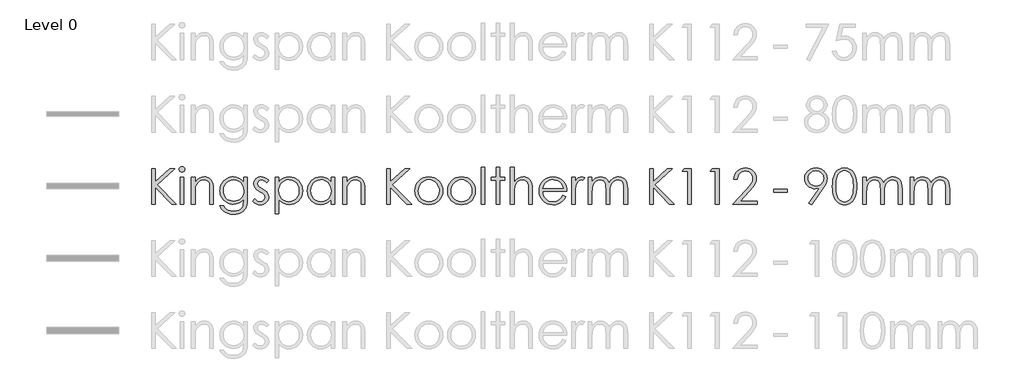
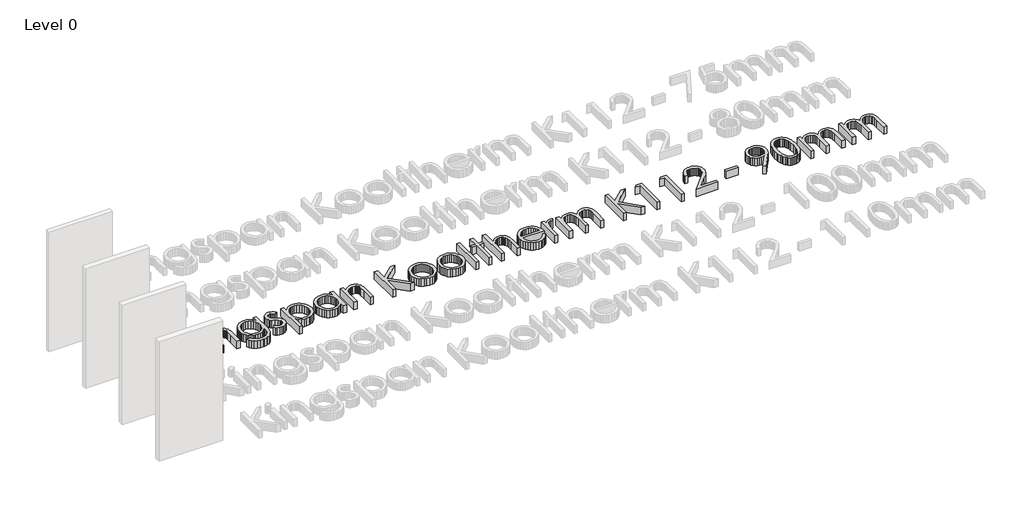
# One storey, part 7 of 14: 1 proxy.
"""IFC4 building model written with IfcOpenShell, lengths in millimetres."""

from ifc_helpers import new_model, si_unit, origin, origin_with_axes, place, context, project, spatial, polyline, outline, extrude, element, save

model = new_model("IFC4")

# Units and contexts
model_context = context("Model", 3, world=origin())
ifc_project = project(units=[si_unit("LENGTHUNIT", "METRE", prefix="MILLI")], contexts=[model_context])

# Site, building, storey
site = spatial("IfcSite", under=ifc_project)
building = spatial("IfcBuilding", under=site)
storey = spatial("IfcBuildingStorey", under=building, Name="Level 0", Elevation=0.0)

# Proxy
placement = place(None, origin())
element("IfcBuildingElementProxy", 1, Name="600mm KI_CenturyGothic", ObjectType="600mm KI_CenturyGothic", at=placement, inside=storey, context=model_context, shape_type="SweptSolid", body=[
    extrude(outline(polyline([(-3852.2663848, -2499.1034017), (-3792.944575, -2499.1034017), (-3792.944575, -2718.316027), (-3555.1938841, -2499.1034017), (-3471.6181051, -2499.1034017), (-3760.9664119, -2766.0515459), (-3441.9572002, -3092.3214999), (-3520.8984627, -3092.3214999), (-3792.944575, -2814.0960325), (-3792.944575, -3092.3214999), (-3852.2663848, -3092.3214999), (-3852.2663848, -2499.1034017)])), origin_with_axes(), (0.0, 0.0, 1.0), 150.0),
    extrude(outline(polyline([(-3348.1854852, -2469.4424967), (-3329.145347, -2472.7252792), (-3313.1176445, -2482.5736265), (-3302.226531, -2497.0178693), (-3298.5961598, -2514.088338), (-3302.226531, -2530.9270809), (-3313.1176445, -2545.2940817), (-3329.145347, -2555.142429), (-3348.1854852, -2558.4252115), (-3366.9938975, -2555.142429), (-3382.9443581, -2545.2940817), (-3393.8354717, -2530.9270809), (-3397.4658428, -2514.088338), (-3393.8354717, -2497.0178693), (-3382.9443581, -2482.5736265), (-3366.9938975, -2472.7252792), (-3348.1854852, -2469.4424967)])), origin_with_axes(), (0.0, 0.0, 1.0), 150.0),
    extrude(outline(polyline([(-3377.6919062, -2647.4079262), (-3318.3700964, -2647.4079262), (-3318.3700964, -3092.3214999), (-3377.6919062, -3092.3214999), (-3377.6919062, -2647.4079262)])), origin_with_axes(), (0.0, 0.0, 1.0), 150.0),
    extrude(outline(polyline([(-3189.8395084, -2647.4079262), (-3130.5176986, -2647.4079262), (-3130.5176986, -2726.5036726), (-3096.9946967, -2686.9944204), (-3060.0730495, -2659.303185), (-3019.7141359, -2642.9665147), (-2975.879335, -2637.5209579), (-2953.4357238, -2639.0995901), (-2932.2955704, -2643.8354865), (-2912.4588747, -2651.7286472), (-2893.9256368, -2662.7790723), (-2877.212412, -2676.5039994), (-2862.835756, -2692.4206667), (-2841.0921499, -2730.8292213), (-2833.6238199, -2755.2087086), (-2828.2892984, -2785.5551357), (-2824.0216812, -2864.1488095), (-2824.0216812, -3092.3214999), (-2883.343491, -3092.3214999), (-2883.343491, -2879.1337458), (-2883.343491, -2776.092998), (-2884.7290183, -2755.2956057), (-2889.8125035, -2737.2403023), (-2898.2849788, -2721.9270877), (-2910.1464442, -2709.355962), (-2924.7403432, -2699.5558909), (-2941.4101193, -2692.5558401), (-2980.977303, -2686.9557994), (-3005.3471351, -2689.1137461), (-3028.4038541, -2695.5875862), (-3050.1474602, -2706.3773197), (-3070.5779533, -2721.4829466), (-3088.6622225, -2739.7651482), (-3103.3671568, -2760.084606), (-3114.6927562, -2782.44132), (-3122.6390208, -2806.8352901), (-3128.5480292, -2853.9142525), (-3130.5176986, -2928.4141035), (-3130.5176986, -3092.3214999), (-3189.8395084, -3092.3214999), (-3189.8395084, -2647.4079262)])), origin_with_axes(), (0.0, 0.0, 1.0), 150.0),
    extrude(outline(polyline([(-2319.7862977, -2647.4079262), (-2260.4644879, -2647.4079262), (-2260.4644879, -2998.395301), (-2264.5196897, -3078.6496765), (-2269.588692, -3109.4499001), (-2276.6852953, -3134.0321474), (-2289.9371156, -3162.6454585), (-2307.2924139, -3187.7732271), (-2328.7511904, -3209.4154531), (-2354.3134448, -3227.5721366), (-2383.3226209, -3241.9343098), (-2415.122162, -3252.1930049), (-2449.7120682, -3258.348222), (-2487.0923395, -3260.3999611), (-2541.0458345, -3256.3833802), (-2589.206184, -3244.3336376), (-2630.260275, -3225.5059147), (-2662.8949946, -3201.1553932), (-2690.2000204, -3167.8061856), (-2715.2650299, -3121.9824048), (-2655.94322, -3121.9824048), (-2642.4355358, -3143.151524), (-2627.0933555, -3161.3951046), (-2609.9166791, -3176.7131468), (-2590.9055067, -3189.1056506), (-2569.7894914, -3198.6691682), (-2546.2982864, -3205.5002523), (-2492.1903075, -3210.9651195), (-2438.5071593, -3205.6354257), (-2415.083541, -3198.9733084), (-2393.93856, -3189.6463441), (-2359.6624492, -3165.6047903), (-2336.8567664, -3136.1176798), (-2329.3884364, -3117.4782342), (-2324.0539149, -3093.7697863), (-2319.7862977, -3031.1458835), (-2319.7862977, -3008.4367532), (-2354.757586, -3044.2190818), (-2396.6420279, -3070.6165148), (-2443.392712, -3086.8952536), (-2492.9627269, -3092.3214999), (-2522.4063889, -3090.4242447), (-2550.9521133, -3084.7324793), (-2578.5999001, -3075.2462036), (-2605.3497494, -3061.9654175), (-2630.1540674, -3045.4742634), (-2651.9652601, -3026.3568832), (-2670.7833277, -3004.6132772), (-2686.6082702, -2980.2434451), (-2699.1456025, -2953.9280817), (-2708.1008399, -2926.3478816), (-2713.4739824, -2897.5028447), (-2715.2650299, -2867.392971), (-2713.3967404, -2837.1044753), (-2707.7918722, -2807.8780563), (-2698.4504251, -2779.713714), (-2685.3723991, -2752.6114483), (-2668.9971079, -2727.4257483), (-2649.7638648, -2705.0111029), (-2627.67267, -2685.367512), (-2602.7235235, -2668.4949758), (-2575.9833294, -2654.943843), (-2548.5189922, -2645.2644624), (-2520.3305117, -2639.456834), (-2491.4178881, -2637.5209579), (-2444.5320306, -2642.4644421), (-2400.8903346, -2657.2948945), (-2359.6045177, -2683.8661218), (-2319.7862977, -2724.0319306), (-2319.7862977, -2647.4079262)]), holes=[polyline([(-2484.1571458, -2686.9557994), (-2529.0154023, -2692.9806707), (-2570.5908765, -2711.0552847), (-2606.2187212, -2739.7699758), (-2633.2340897, -2777.7150788), (-2650.2659375, -2821.9940208), (-2655.94322, -2869.7102292), (-2653.0080263, -2905.6229036), (-2644.2024452, -2938.2817613), (-2629.5264766, -2967.6868023), (-2608.9801206, -2993.8380266), (-2583.7606272, -3015.296803), (-2555.0652466, -3030.6245004), (-2522.8939786, -3039.8211189), (-2487.2468234, -3042.8866584), (-2451.3244937, -3039.845257), (-2419.1001219, -3030.7210528), (-2390.573708, -3015.5140459), (-2365.7452519, -2994.2242363), (-2345.6382095, -2967.9812872), (-2331.2760363, -2937.9148621), (-2322.6587323, -2904.024961), (-2319.7862977, -2866.3115838), (-2325.0773706, -2817.6105407), (-2340.9505892, -2774.3936754), (-2366.4983608, -2738.1672056), (-2400.8130926, -2710.4373492), (-2440.9982119, -2692.8261869), (-2484.1571458, -2686.9557994)])]), origin_with_axes(), (0.0, 0.0, 1.0), 150.0),
    extrude(outline(polyline([(-1904.5336289, -2698.6965743), (-1940.9918246, -2736.390641), (-1962.9575012, -2714.7628978), (-1984.6721416, -2699.3145098), (-2006.1357456, -2690.045477), (-2027.3483133, -2686.9557994), (-2052.181597, -2691.6289368), (-2073.2300256, -2705.6483489), (-2087.5970264, -2725.8857371), (-2092.3860267, -2749.212803), (-2088.4466878, -2770.7633042), (-2076.628671, -2791.2324183), (-2052.0657341, -2813.400855), (-2010.2006027, -2839.122421), (-1958.3326401, -2871.9888664), (-1939.8428507, -2887.8138088), (-1926.315856, -2903.2332311), (-1909.9791857, -2935.9065716), (-1904.5336289, -2972.4420092), (-1906.9474396, -2998.5884059), (-1914.1888714, -3022.6492701), (-1926.2579245, -3044.624602), (-1943.1545989, -3064.5144015), (-1963.6719892, -3081.0055557), (-1986.6031901, -3092.7849515), (-2011.9482016, -3099.852589), (-2039.7070237, -3102.2084682), (-2077.4397114, -3098.3270607), (-2113.3958344, -3086.6828383), (-2145.4512394, -3068.2027042), (-2171.4817731, -3043.8135617), (-2135.7959969, -3003.3387852), (-2114.0041146, -3024.9665283), (-2091.5749863, -3040.4149163), (-2068.5086121, -3049.6839491), (-2044.8049918, -3052.7736267), (-2013.637869, -3047.1349651), (-1987.4914724, -3030.2189802), (-1969.7644472, -3005.6560434), (-1963.8554388, -2977.0765256), (-1967.7561567, -2953.2860081), (-1979.4583106, -2932.2762005), (-2005.0253927, -2910.5712154), (-2050.2119275, -2883.7682622), (-2099.762632, -2853.1032121), (-2117.441381, -2837.9444814), (-2130.3890611, -2822.9016136), (-2146.3781427, -2790.7689666), (-2151.7078365, -2754.310771), (-2149.5305794, -2730.2643896), (-2142.9988078, -2708.3325063), (-2132.1125219, -2688.5151211), (-2116.8717217, -2670.812234), (-2098.309518, -2656.2473007), (-2077.4590218, -2645.8437769), (-2054.3202332, -2639.6016627), (-2028.8931521, -2637.5209579), (-1997.9481, -2641.3444339), (-1966.9064954, -2652.814862), (-1935.7683384, -2671.9322421), (-1904.5336289, -2698.6965743)])), origin_with_axes(), (0.0, 0.0, 1.0), 150.0),
    extrude(outline(polyline([(-1795.7769776, -2647.4079262), (-1736.4551678, -2647.4079262), (-1736.4551678, -2728.5119631), (-1700.9238754, -2688.2689124), (-1660.4490989, -2659.9211205), (-1614.9922173, -2643.1209986), (-1564.5146096, -2637.5209579), (-1520.0618732, -2641.7596094), (-1478.9305402, -2654.4755637), (-1441.1206107, -2675.668821), (-1406.6320845, -2705.3393811), (-1377.9077381, -2740.9768811), (-1357.3903478, -2780.070958), (-1345.0799137, -2822.6216116), (-1340.9764356, -2868.628842), (-1345.0412927, -2915.5291824), (-1357.235864, -2958.7508754), (-1377.5601494, -2998.293921), (-1406.014149, -3034.1583192), (-1440.2130179, -3063.9302594), (-1477.7719111, -3085.1959309), (-1518.6908288, -3097.9553339), (-1562.9697708, -3102.2084682), (-1612.6170277, -3096.743601), (-1658.0545988, -3080.3489992), (-1699.3211052, -3053.1019049), (-1736.4551678, -3015.07956), (-1736.4551678, -3250.5129928), (-1795.7769776, -3250.5129928), (-1795.7769776, -2647.4079262)]), holes=[polyline([(-1568.5311905, -2686.9557994), (-1602.5852307, -2690.2530647), (-1633.8392507, -2700.1448607), (-1662.2932503, -2716.6311872), (-1687.9472295, -2739.7120444), (-1709.1694525, -2767.6977647), (-1724.3281832, -2798.8986808), (-1733.4234216, -2833.3147926), (-1736.4551678, -2870.9461002), (-1731.048232, -2919.8016272), (-1714.8274246, -2963.4819442), (-1688.5265441, -3000.3263495), (-1652.8793888, -3028.6741414), (-1611.4390881, -3046.7487554), (-1567.7587711, -3052.7736267), (-1525.0632888, -3046.7101344), (-1485.0326535, -3028.5196576), (-1450.2544701, -2999.4187567), (-1423.3163435, -2960.6239924), (-1406.05277, -2915.9588407), (-1400.2982454, -2869.2467775), (-1405.9948385, -2822.3029886), (-1423.0846177, -2777.8695627), (-1449.8103289, -2739.5189395), (-1484.414718, -2710.8235589), (-1524.7157001, -2692.9227393), (-1568.5311905, -2686.9557994)])]), origin_with_axes(), (0.0, 0.0, 1.0), 150.0),
    extrude(outline(polyline([(-807.0801472, -2647.4079262), (-807.0801472, -3092.3214999), (-866.401957, -3092.3214999), (-866.401957, -3016.4699149), (-903.4780882, -3054.3184655), (-944.8797679, -3081.0441767), (-990.4525125, -3096.9173953), (-1040.0418379, -3102.2084682), (-1084.3159523, -3097.9553339), (-1125.2203871, -3085.1959309), (-1162.7551422, -3063.9302594), (-1196.9202178, -3034.1583192), (-1225.340424, -2998.293921), (-1245.6405713, -2958.7508754), (-1257.8206597, -2915.5291824), (-1261.8806892, -2868.628842), (-1257.7820388, -2822.6216116), (-1245.4860875, -2780.070958), (-1224.9928353, -2740.9768811), (-1196.3022822, -2705.3393811), (-1161.8475494, -2675.668821), (-1124.061758, -2654.4755637), (-1082.9449079, -2641.7596094), (-1038.4969991, -2637.5209579), (-987.7490446, -2643.1209986), (-942.0990581, -2659.9211205), (-921.2051134, -2672.6081091), (-901.6242816, -2688.2689124), (-866.401957, -2728.5119631), (-866.401957, -2647.4079262), (-807.0801472, -2647.4079262)]), holes=[polyline([(-1034.3259343, -2686.9557994), (-1078.1414247, -2692.9227393), (-1118.4424068, -2710.8235589), (-1153.0467959, -2739.5189395), (-1179.7725071, -2777.8695627), (-1196.8622863, -2822.3029886), (-1202.5588794, -2869.2467775), (-1196.8043548, -2915.9588407), (-1179.5407813, -2960.6239924), (-1152.6026548, -2999.4187567), (-1117.8244713, -3028.5196576), (-1077.6779731, -3046.7101344), (-1034.6349021, -3052.7736267), (-991.0125165, -3046.7487554), (-949.7460102, -3028.6741414), (-914.2726493, -3000.3263495), (-888.0297002, -2963.4819442), (-871.8088928, -2919.8016272), (-866.401957, -2870.9461002), (-869.4337032, -2833.3147926), (-878.5289416, -2798.8986808), (-893.6876723, -2767.6977647), (-914.9098953, -2739.7120444), (-940.5638746, -2716.6311872), (-969.0178742, -2700.1448607), (-1000.2718941, -2690.2530647), (-1034.3259343, -2686.9557994)])]), origin_with_axes(), (0.0, 0.0, 1.0), 150.0),
    extrude(outline(polyline([(-668.662591, -2647.4079262), (-609.3407811, -2647.4079262), (-609.3407811, -2726.5036726), (-575.8177792, -2686.9944204), (-538.896132, -2659.303185), (-498.5372184, -2642.9665147), (-454.7024175, -2637.5209579), (-432.2588064, -2639.0995901), (-411.1186529, -2643.8354865), (-391.2819572, -2651.7286472), (-372.7487193, -2662.7790723), (-356.0354946, -2676.5039994), (-341.6588385, -2692.4206667), (-319.9152324, -2730.8292213), (-312.4469024, -2755.2087086), (-307.1123809, -2785.5551357), (-302.8447637, -2864.1488095), (-302.8447637, -3092.3214999), (-362.1665735, -3092.3214999), (-362.1665735, -2879.1337458), (-362.1665735, -2776.092998), (-363.5521008, -2755.2956057), (-368.635586, -2737.2403023), (-377.1080613, -2721.9270877), (-388.9695267, -2709.355962), (-403.5634257, -2699.5558909), (-420.2332018, -2692.5558401), (-459.8003855, -2686.9557994), (-484.1702176, -2689.1137461), (-507.2269366, -2695.5875862), (-528.9705427, -2706.3773197), (-549.4010358, -2721.4829466), (-567.485305, -2739.7651482), (-582.1902393, -2760.084606), (-593.5158387, -2782.44132), (-601.4621033, -2806.8352901), (-607.3711117, -2853.9142525), (-609.3407811, -2928.4141035), (-609.3407811, -3092.3214999), (-668.662591, -3092.3214999), (-668.662591, -2647.4079262)])), origin_with_axes(), (0.0, 0.0, 1.0), 150.0),
    extrude(outline(polyline([(62.9730635, -2499.1034017), (122.2948734, -2499.1034017), (122.2948734, -2718.316027), (360.0455643, -2499.1034017), (443.6213432, -2499.1034017), (154.2730365, -2766.0515459), (473.2822481, -3092.3214999), (394.3409856, -3092.3214999), (122.2948734, -2814.0960325), (122.2948734, -3092.3214999), (62.9730635, -3092.3214999), (62.9730635, -2499.1034017)])), origin_with_axes(), (0.0, 0.0, 1.0), 150.0),
    extrude(outline(polyline([(760.1588128, -2637.5209579), (809.4681362, -2642.1458191), (854.3553585, -2656.0204025), (894.8204798, -2679.1447083), (930.8635, -2711.5187363), (957.7630055, -2746.7507161), (976.9769381, -2785.091684), (988.5052976, -2826.54164), (992.3480841, -2871.1005841), (988.283227, -2915.9153921), (976.0886558, -2957.8239721), (955.7643703, -2996.8263241), (927.3103707, -3032.9224481), (892.4742558, -3063.2350819), (853.0036246, -3084.8869632), (808.8984769, -3097.8780919), (760.1588128, -3102.2084682), (711.2839754, -3097.8780919), (667.0822753, -3084.8869632), (627.5537126, -3063.2350819), (592.6982872, -3032.9224481), (564.2442876, -2996.8263241), (543.9200022, -2957.8239721), (531.7254309, -2915.9153921), (527.6605738, -2871.1005841), (531.5033603, -2826.7347449), (543.0317198, -2785.4006518), (562.2456524, -2747.0983049), (589.145158, -2711.8277041), (625.2074886, -2679.3185026), (665.7305413, -2656.0976445), (710.7143161, -2642.1651295), (760.1588128, -2637.5209579)]), holes=[polyline([(760.004329, -2686.9557994), (725.7282181, -2690.3303067), (693.9624704, -2700.4538284), (664.7070856, -2717.3263647), (637.962064, -2740.9479154), (615.6584538, -2769.3584664), (599.7273037, -2800.5980035), (590.1686137, -2834.6665266), (586.9823836, -2871.5640357), (592.7948396, -2919.2995546), (610.2322075, -2963.6364281), (637.5758543, -3001.4270471), (673.1071466, -3029.5238028), (714.6439998, -3046.9611707), (760.004329, -3052.7736267), (805.3646581, -3046.9611707), (846.9015113, -3029.5238028), (882.4328037, -3001.4270471), (909.7764504, -2963.6364281), (927.2138183, -2919.2995546), (933.0262743, -2871.5640357), (929.8255614, -2834.6665266), (920.2234227, -2800.5980035), (904.2198583, -2769.3584664), (881.8148681, -2740.9479154), (854.9974321, -2717.3263647), (825.7565303, -2700.4538284), (794.0921625, -2690.3303067), (760.004329, -2686.9557994)])]), origin_with_axes(), (0.0, 0.0, 1.0), 150.0),
    extrude(outline(polyline([(1303.9420695, -2637.5209579), (1353.2513929, -2642.1458191), (1398.1386152, -2656.0204025), (1438.6037365, -2679.1447083), (1474.6467567, -2711.5187363), (1501.5462622, -2746.7507161), (1520.7601948, -2785.091684), (1532.2885543, -2826.54164), (1536.1313408, -2871.1005841), (1532.0664837, -2915.9153921), (1519.8719125, -2957.8239721), (1499.547627, -2996.8263241), (1471.0936274, -3032.9224481), (1436.2575126, -3063.2350819), (1396.7868813, -3084.8869632), (1352.6817336, -3097.8780919), (1303.9420695, -3102.2084682), (1255.0672321, -3097.8780919), (1210.865532, -3084.8869632), (1171.3369693, -3063.2350819), (1136.4815439, -3032.9224481), (1108.0275443, -2996.8263241), (1087.7032589, -2957.8239721), (1075.5086876, -2915.9153921), (1071.4438305, -2871.1005841), (1075.286617, -2826.7347449), (1086.8149766, -2785.4006518), (1106.0289091, -2747.0983049), (1132.9284147, -2711.8277041), (1168.9907453, -2679.3185026), (1209.5137981, -2656.0976445), (1254.4975728, -2642.1651295), (1303.9420695, -2637.5209579)]), holes=[polyline([(1303.7875857, -2686.9557994), (1269.5114748, -2690.3303067), (1237.7457271, -2700.4538284), (1208.4903423, -2717.3263647), (1181.7453207, -2740.9479154), (1159.4417105, -2769.3584664), (1143.5105604, -2800.5980035), (1133.9518704, -2834.6665266), (1130.7656404, -2871.5640357), (1136.5780963, -2919.2995546), (1154.0154643, -2963.6364281), (1181.359111, -3001.4270471), (1216.8904033, -3029.5238028), (1258.4272565, -3046.9611707), (1303.7875857, -3052.7736267), (1349.1479149, -3046.9611707), (1390.684768, -3029.5238028), (1426.2160604, -3001.4270471), (1453.5597071, -2963.6364281), (1470.997075, -2919.2995546), (1476.809531, -2871.5640357), (1473.6088181, -2834.6665266), (1464.0066795, -2800.5980035), (1448.003115, -2769.3584664), (1425.5981249, -2740.9479154), (1398.7806889, -2717.3263647), (1369.539787, -2700.4538284), (1337.8754193, -2690.3303067), (1303.7875857, -2686.9557994)])]), origin_with_axes(), (0.0, 0.0, 1.0), 150.0),
    extrude(outline(polyline([(1635.0010238, -2479.3294651), (1694.3228337, -2479.3294651), (1694.3228337, -3092.3214999), (1635.0010238, -3092.3214999), (1635.0010238, -2479.3294651)])), origin_with_axes(), (0.0, 0.0, 1.0), 150.0),
    extrude(outline(polyline([(1882.1752314, -2479.3294651), (1941.4970413, -2479.3294651), (1941.4970413, -2647.4079262), (2020.5927877, -2647.4079262), (2020.5927877, -2696.8427677), (1941.4970413, -2696.8427677), (1941.4970413, -3092.3214999), (1882.1752314, -3092.3214999), (1882.1752314, -2696.8427677), (1803.079485, -2696.8427677), (1803.079485, -2647.4079262), (1882.1752314, -2647.4079262), (1882.1752314, -2479.3294651)])), origin_with_axes(), (0.0, 0.0, 1.0), 150.0),
    extrude(outline(polyline([(2119.4624707, -2479.3294651), (2178.7842806, -2479.3294651), (2178.7842806, -2728.0485114), (2212.5583188, -2688.3461544), (2249.6151394, -2660.0756044), (2289.9161216, -2643.1596195), (2333.4226442, -2637.5209579), (2355.8662553, -2639.0995901), (2377.0064088, -2643.8354865), (2396.8431044, -2651.7286472), (2415.3763424, -2662.7790723), (2432.0895671, -2676.4895166), (2446.4662232, -2692.3627352), (2468.2098293, -2730.5974955), (2475.6781593, -2754.9045684), (2481.0126808, -2785.2654784), (2485.280298, -2864.1488095), (2485.280298, -3092.3214999), (2425.9584882, -3092.3214999), (2425.9584882, -2879.1337458), (2424.5681332, -2814.752589), (2420.3970685, -2776.092998), (2406.879729, -2737.2403023), (2397.1665551, -2721.9270877), (2385.4837117, -2709.355962), (2371.840854, -2699.5558909), (2356.2476374, -2692.5558401), (2319.2101273, -2686.9557994), (2296.3416854, -2689.1137461), (2274.6994594, -2695.5875862), (2254.2834492, -2706.3773197), (2235.0936547, -2721.4829466), (2218.1052556, -2739.7651482), (2204.2934312, -2760.084606), (2193.6581816, -2782.44132), (2186.1995068, -2806.8352901), (2180.6380871, -2853.6825267), (2178.7842806, -2928.4141035), (2178.7842806, -3092.3214999), (2119.4624707, -3092.3214999), (2119.4624707, -2479.3294651)])), origin_with_axes(), (0.0, 0.0, 1.0), 150.0),
    extrude(outline(polyline([(2991.0605203, -2944.0169753), (3038.950523, -2969.1978477), (3013.3255094, -3011.0822896), (2984.0315038, -3044.0452875), (2950.952643, -3069.1296074), (2913.9730643, -3087.3780157), (2872.4941426, -3098.5008551), (2825.9172528, -3102.2084682), (2774.4258447, -3097.7767119), (2728.8627554, -3084.481443), (2689.227985, -3062.3226615), (2655.5215335, -3031.3003674), (2628.6220279, -2994.6973431), (2609.4080954, -2955.7963712), (2597.8797358, -2914.5974515), (2594.0369493, -2871.1005841), (2597.3197318, -2830.2202874), (2607.1680791, -2791.618628), (2623.5819913, -2755.2956057), (2646.5614684, -2721.2512207), (2682.7493173, -2684.6192308), (2724.5758277, -2658.4535236), (2772.0409998, -2642.7540993), (2825.1448334, -2637.5209579), (2879.7935059, -2642.8892727), (2928.6490329, -2658.9942172), (2971.7114143, -2685.8357913), (3008.9806503, -2723.4139951), (3030.4539096, -2755.585263), (3045.9022976, -2791.541386), (3055.3258143, -2831.2823641), (3058.7244596, -2874.8081972), (2653.3587591, -2874.8081972), (2657.095338, -2912.0629503), (2666.6057518, -2945.8128504), (2681.8900007, -2976.0578975), (2702.9480845, -3002.7980916), (2728.3124066, -3024.6623882), (2756.5153699, -3040.2797429), (2787.5569744, -3049.6501557), (2821.4372203, -3052.7736267), (2854.9602222, -3049.761191), (2887.5563208, -3040.7238841), (2917.2944677, -3026.6851615), (2942.2436143, -3008.668479), (2965.725164, -2982.5027719), (2991.0605203, -2944.0169753)]), holes=[polyline([(2999.4026498, -2825.3733557), (2984.9777175, -2782.8516678), (2965.1844704, -2749.8307385), (2939.0766947, -2724.3022774), (2905.7081767, -2704.257994), (2867.7630738, -2691.2813481), (2827.9255433, -2686.9557994), (2795.503239, -2689.6689226), (2765.4368139, -2697.808292), (2737.726268, -2711.3739077), (2712.3716012, -2730.3657696), (2695.8321708, -2748.179692), (2681.4362043, -2769.9522638), (2669.1837016, -2795.683485), (2659.0746627, -2825.3733557), (2999.4026498, -2825.3733557)])]), origin_with_axes(), (0.0, 0.0, 1.0), 150.0),
    extrude(outline(polyline([(3137.820206, -2647.4079262), (3197.1420159, -2647.4079262), (3197.1420159, -2711.8277041), (3222.6897875, -2678.7874643), (3249.589293, -2655.6728138), (3277.7632906, -2642.0589219), (3307.1345382, -2637.5209579), (3330.4616041, -2641.305813), (3355.3335087, -2652.6603781), (3325.8270877, -2694.6799934), (3297.2475699, -2686.9557994), (3270.8308265, -2692.9034288), (3245.3409863, -2710.7463169), (3223.2884125, -2741.1023993), (3207.183468, -2784.5896114), (3199.6523789, -2842.7141712), (3197.1420159, -2940.1548783), (3197.1420159, -3092.3214999), (3137.820206, -3092.3214999), (3137.820206, -2647.4079262)])), origin_with_axes(), (0.0, 0.0, 1.0), 150.0),
    extrude(outline(polyline([(3414.6553185, -2647.4079262), (3473.9771284, -2647.4079262), (3473.9771284, -2723.5684789), (3503.5607913, -2687.0716623), (3533.9168737, -2661.9294109), (3577.3268439, -2643.6230712), (3622.8995884, -2637.5209579), (3653.7384329, -2640.668567), (3682.9165757, -2650.1113941), (3708.6767627, -2664.7873627), (3729.2617397, -2683.634396), (3746.0425511, -2709.0663047), (3760.3902414, -2743.4968994), (3775.16759, -2719.0981017), (3791.6925376, -2697.808292), (3809.965084, -2679.6274704), (3829.9852293, -2664.5556369), (3851.2798666, -2652.7279648), (3873.375889, -2644.2796277), (3896.2732965, -2639.2106253), (3919.9720892, -2637.5209579), (3962.3006723, -2643.3334139), (3981.4952943, -2650.5989839), (3999.3768034, -2660.7707818), (4015.4914031, -2673.53984), (4029.385297, -2688.5971907), (4050.5109676, -2725.5767694), (4057.8103309, -2748.9521114), (4063.0241619, -2777.5219739), (4067.1952266, -2850.2452603), (4067.1952266, -3092.3214999), (4007.8734168, -3092.3214999), (4007.8734168, -2846.6921311), (4005.4209852, -2785.5744462), (3998.0636904, -2747.1272706), (3984.7587663, -2722.6608861), (3964.4634466, -2703.4855746), (3938.3942919, -2691.0882432), (3907.7678627, -2686.9557994), (3888.1194443, -2688.5054659), (3869.3399976, -2693.1544651), (3834.3880198, -2711.7504621), (3805.6540182, -2740.6968791), (3785.8800816, -2777.9468046), (3779.1889985, -2802.1042213), (3774.4096535, -2833.1747916), (3770.5861775, -2916.0553931), (3770.5861775, -3092.3214999), (3711.2643677, -3092.3214999), (3711.2643677, -2861.9860352), (3708.850557, -2793.530366), (3701.6091252, -2751.2983353), (3688.3621325, -2725.0553863), (3667.9316394, -2704.5669617), (3641.6114484, -2691.35859), (3610.6953619, -2686.9557994), (3573.7544042, -2692.9999812), (3539.2465676, -2711.1325266), (3510.2808401, -2739.499629), (3489.9662099, -2776.2474819), (3477.9743988, -2828.0768236), (3473.9771284, -2901.6883923), (3473.9771284, -3092.3214999), (3414.6553185, -3092.3214999), (3414.6553185, -2647.4079262)])), origin_with_axes(), (0.0, 0.0, 1.0), 150.0),
    extrude(outline(polyline([(4433.0130538, -2499.1034017), (4492.3348637, -2499.1034017), (4492.3348637, -2718.316027), (4730.0855546, -2499.1034017), (4813.6613335, -2499.1034017), (4524.3130268, -2766.0515459), (4843.3222385, -3092.3214999), (4764.3809759, -3092.3214999), (4492.3348637, -2814.0960325), (4492.3348637, -3092.3214999), (4433.0130538, -3092.3214999), (4433.0130538, -2499.1034017)])), origin_with_axes(), (0.0, 0.0, 1.0), 150.0),
    extrude(outline(polyline([(5010.6282802, -2499.1034017), (5125.1008351, -2499.1034017), (5125.1008351, -3092.3214999), (5065.7790253, -3092.3214999), (5065.7790253, -2548.5382432), (4976.7963106, -2548.5382432), (5010.6282802, -2499.1034017)])), origin_with_axes(), (0.0, 0.0, 1.0), 150.0),
    extrude(outline(polyline([(5475.3157905, -2499.1034017), (5589.7883454, -2499.1034017), (5589.7883454, -3092.3214999), (5530.4665356, -3092.3214999), (5530.4665356, -2548.5382432), (5441.4838208, -2548.5382432), (5475.3157905, -2499.1034017)])), origin_with_axes(), (0.0, 0.0, 1.0), 150.0),
    extrude(outline(polyline([(5896.2843628, -2677.0688311), (5836.962553, -2677.0688311), (5841.4474131, -2637.8106152), (5852.5847353, -2602.2213914), (5870.3745196, -2570.3011597), (5894.816766, -2542.0499202), (5924.2121517, -2518.9352697), (5956.8613542, -2502.4248051), (5992.7643733, -2492.5185263), (6031.9212092, -2489.2164334), (6070.3925229, -2492.5136987), (6105.0113948, -2502.4054946), (6135.777825, -2518.8918211), (6162.6918135, -2541.9726783), (6184.5561101, -2569.533568), (6200.1734648, -2599.459992), (6209.5438776, -2631.7519505), (6212.6673485, -2666.4094434), (6206.5845458, -2715.2070389), (6188.3361375, -2760.8763359), (6152.5538088, -2812.763609), (6093.869245, -2880.215133), (5941.084688, -3042.8866584), (6222.5543169, -3042.8866584), (6222.5543169, -3092.3214999), (5817.1886164, -3092.3214999), (6043.1985325, -2851.6356152), (6099.9327373, -2786.1151397), (6132.6446988, -2740.0210121), (6148.1703288, -2702.6552237), (6153.3455387, -2663.3197658), (6151.0958672, -2638.7133804), (6144.3468527, -2615.8739043), (6133.0984952, -2594.8013375), (6117.3507947, -2575.4956802), (6098.3396223, -2559.3762529), (6077.3008489, -2547.8623762), (6054.2344746, -2540.9540502), (6029.1404994, -2538.6512749), (6002.8058255, -2540.9250845), (5978.7980651, -2547.7465133), (5957.1172181, -2559.1155613), (5937.7632845, -2575.0322286), (5921.5279943, -2595.0523738), (5909.2030773, -2618.731856), (5900.7885334, -2646.0706751), (5896.2843628, -2677.0688311)])), origin_with_axes(), (0.0, 0.0, 1.0), 150.0),
    extrude(outline(polyline([(6499.3894294, -2845.1472923), (6726.7897004, -2845.1472923), (6726.7897004, -2894.5821338), (6499.3894294, -2894.5821338), (6499.3894294, -2845.1472923)])), origin_with_axes(), (0.0, 0.0, 1.0), 150.0),
    extrude(outline(polyline([(7132.1554008, -3102.2084682), (7081.1757205, -3074.5558537), (7254.5066336, -2829.3899366), (7192.24963, -2835.260324), (7156.3514385, -2832.1899569), (7123.2725777, -2822.9788556), (7093.0130478, -2807.62702), (7065.5728486, -2786.1344502), (7042.7961316, -2760.1521927), (7026.527048, -2731.3312939), (7016.7655979, -2699.6717538), (7013.5117812, -2665.1735724), (7015.0421371, -2641.1368462), (7019.6332049, -2618.3070254), (7027.2849846, -2596.6841098), (7037.9974761, -2576.2680996), (7051.5196432, -2557.450032), (7067.6004496, -2540.6209443), (7107.4379801, -2512.9297089), (7154.0148698, -2495.1447522), (7203.835921, -2489.2164334), (7252.5562746, -2495.0481998), (7297.3759102, -2512.5434992), (7317.6615747, -2525.3753165), (7335.6492914, -2540.5437024), (7351.3390604, -2558.048657), (7364.7308818, -2577.8901803), (7383.095153, -2621.2615296), (7389.2165767, -2667.3363467), (7385.3931007, -2704.180752), (7373.9226726, -2742.72448), (7352.6038972, -2786.1344502), (7319.2353792, -2837.5775822), (7132.1554008, -3102.2084682)]), holes=[polyline([(7204.7628243, -2785.8254825), (7231.0154286, -2783.5613281), (7254.7769804, -2776.768865), (7276.0474796, -2765.4480932), (7294.8269262, -2749.5990127), (7310.1691065, -2730.5540469), (7321.1278067, -2709.6456193), (7327.7030268, -2686.8737299), (7329.8947669, -2662.2383787), (7327.5437153, -2637.6030275), (7320.4905607, -2614.8311381), (7308.735303, -2593.9227105), (7292.2779422, -2574.8777447), (7272.4798675, -2559.0286641), (7250.702468, -2547.7078923), (7226.9457439, -2540.9154292), (7201.2096951, -2538.6512749), (7175.6088196, -2540.9154292), (7151.9486479, -2547.7078923), (7130.2291799, -2559.0286641), (7110.4504157, -2574.8777447), (7093.9930549, -2593.9227105), (7082.2377972, -2614.8311381), (7075.1846425, -2637.6030275), (7072.833591, -2662.2383787), (7075.2474016, -2686.8737299), (7082.4888335, -2709.6456193), (7094.5578866, -2730.5540469), (7111.4545609, -2749.5990127), (7131.7691911, -2765.4480932), (7154.0921117, -2776.768865), (7178.4233228, -2783.5613281), (7204.7628243, -2785.8254825)])]), origin_with_axes(), (0.0, 0.0, 1.0), 150.0),
    extrude(outline(polyline([(7478.1992914, -2795.8669347), (7479.7779236, -2741.4355052), (7484.51382, -2693.5406748), (7492.4069808, -2652.1824436), (7503.4574058, -2617.3608116), (7517.3850931, -2587.7192172), (7533.9100406, -2561.9010988), (7553.0322483, -2539.9064564), (7574.7517163, -2521.73529), (7598.4456813, -2507.5082902), (7623.4913804, -2497.3461475), (7649.8888133, -2491.2488619), (7677.6379802, -2489.2164334), (7705.8409435, -2491.2633448), (7732.6728624, -2497.404079), (7758.1337368, -2507.638636), (7782.2235668, -2521.9670159), (7804.4064864, -2540.3843909), (7824.1466297, -2562.8859335), (7841.4439966, -2589.4716437), (7856.2985871, -2620.1415214), (7868.2276392, -2655.6583309), (7876.7483907, -2696.7848363), (7881.8608416, -2743.5210375), (7883.5649919, -2795.8669347), (7881.8849797, -2848.0535203), (7876.8449431, -2894.6207548), (7868.4448822, -2935.5686382), (7856.6847968, -2970.8971704), (7841.9750349, -3001.4222195), (7824.7259442, -3027.9596535), (7804.9375247, -3050.5094723), (7782.6097765, -3069.071676), (7758.3509797, -3083.5690226), (7732.7694148, -3093.9242701), (7705.8650816, -3100.1374187), (7677.6379802, -3102.2084682), (7649.9129514, -3100.2001778), (7623.5879328, -3094.1753064), (7598.6629243, -3084.1338543), (7575.137926, -3070.0758212), (7553.5632867, -3052.0398282), (7534.4893551, -3030.0644964), (7517.9161314, -3004.1498255), (7503.8436155, -2974.2958158), (7492.6242237, -2939.2762513), (7484.6103725, -2897.8649163), (7479.8020617, -2850.0618107), (7478.1992914, -2795.8669347)]), holes=[polyline([(7537.5211013, -2795.7124508), (7541.9045814, -2884.038609), (7547.3839315, -2919.0195525), (7555.0550216, -2947.8790723), (7564.8695756, -2972.1185586), (7576.7793172, -2993.2394015), (7590.7842464, -3011.2416011), (7606.8843633, -3026.1251574), (7642.1839298, -3046.1115094), (7660.586822, -3051.1080973), (7679.4917868, -3052.7736267), (7698.4836487, -3051.1418907), (7716.8382647, -3046.2466828), (7751.6357586, -3026.665851), (7767.3931143, -3011.9898824), (7781.1421796, -2994.0697524), (7792.8829545, -2972.9054608), (7802.6154389, -2948.4970078), (7812.0775766, -2915.1381451), (7818.8362463, -2878.5544313), (7824.2431821, -2795.7124508), (7819.4155608, -2714.1063413), (7813.3810343, -2679.4150551), (7804.9326971, -2648.7982811), (7794.3505514, -2622.135329), (7781.914599, -2599.3055082), (7767.6248402, -2580.3088186), (7751.4812747, -2565.1452603), (7716.413434, -2545.2747712), (7698.1843362, -2540.307149), (7679.4917868, -2538.6512749), (7660.4757867, -2540.307149), (7642.0487564, -2545.2747712), (7606.9616052, -2565.1452603), (7591.0159723, -2579.9564022), (7577.088285, -2597.8958428), (7565.1785434, -2618.9635819), (7555.2867474, -2643.1596195), (7547.5142772, -2672.0143117), (7541.9625128, -2707.0580143), (7537.5211013, -2795.7124508)])]), origin_with_axes(), (0.0, 0.0, 1.0), 150.0),
    extrude(outline(polyline([(7982.4346749, -2647.4079262), (8041.7564848, -2647.4079262), (8041.7564848, -2723.5684789), (8071.3401477, -2687.0716623), (8101.6962301, -2661.9294109), (8145.1062003, -2643.6230712), (8190.6789448, -2637.5209579), (8221.5177893, -2640.668567), (8250.6959321, -2650.1113941), (8276.4561191, -2664.7873627), (8297.0410961, -2683.634396), (8313.8219075, -2709.0663047), (8328.1695978, -2743.4968994), (8342.9469464, -2719.0981017), (8359.471894, -2697.808292), (8377.7444404, -2679.6274704), (8397.7645856, -2664.5556369), (8419.0592229, -2652.7279648), (8441.1552454, -2644.2796277), (8464.0526529, -2639.2106253), (8487.7514456, -2637.5209579), (8530.0800287, -2643.3334139), (8549.2746507, -2650.5989839), (8567.1561598, -2660.7707818), (8583.2707595, -2673.53984), (8597.1646534, -2688.5971907), (8618.290324, -2725.5767694), (8625.5896873, -2748.9521114), (8630.8035182, -2777.5219739), (8634.974583, -2850.2452603), (8634.974583, -3092.3214999), (8575.6527732, -3092.3214999), (8575.6527732, -2846.6921311), (8573.2003416, -2785.5744462), (8565.8430468, -2747.1272706), (8552.5381227, -2722.6608861), (8532.242803, -2703.4855746), (8506.1736483, -2691.0882432), (8475.5472191, -2686.9557994), (8455.8988006, -2688.5054659), (8437.119354, -2693.1544651), (8402.1673762, -2711.7504621), (8373.4333746, -2740.6968791), (8353.659438, -2777.9468046), (8346.9683549, -2802.1042213), (8342.1890099, -2833.1747916), (8338.3655339, -2916.0553931), (8338.3655339, -3092.3214999), (8279.0437241, -3092.3214999), (8279.0437241, -2861.9860352), (8276.6299134, -2793.530366), (8269.3884816, -2751.2983353), (8256.1414889, -2725.0553863), (8235.7109958, -2704.5669617), (8209.3908048, -2691.35859), (8178.4747183, -2686.9557994), (8141.5337606, -2692.9999812), (8107.025924, -2711.1325266), (8078.0601965, -2739.499629), (8057.7455663, -2776.2474819), (8045.7537552, -2828.0768236), (8041.7564848, -2901.6883923), (8041.7564848, -3092.3214999), (7982.4346749, -3092.3214999), (7982.4346749, -2647.4079262)])), origin_with_axes(), (0.0, 0.0, 1.0), 150.0),
    extrude(outline(polyline([(8773.3921393, -2647.4079262), (8832.7139491, -2647.4079262), (8832.7139491, -2723.5684789), (8862.2976121, -2687.0716623), (8892.6536944, -2661.9294109), (8936.0636646, -2643.6230712), (8981.6364092, -2637.5209579), (9012.4752537, -2640.668567), (9041.6533964, -2650.1113941), (9067.4135834, -2664.7873627), (9087.9985604, -2683.634396), (9104.7793718, -2709.0663047), (9119.1270621, -2743.4968994), (9133.9044108, -2719.0981017), (9150.4293583, -2697.808292), (9168.7019047, -2679.6274704), (9188.72205, -2664.5556369), (9210.0166873, -2652.7279648), (9232.1127097, -2644.2796277), (9255.0101172, -2639.2106253), (9278.7089099, -2637.5209579), (9321.037493, -2643.3334139), (9340.232115, -2650.5989839), (9358.1136241, -2660.7707818), (9374.2282238, -2673.53984), (9388.1221177, -2688.5971907), (9409.2477883, -2725.5767694), (9416.5471516, -2748.9521114), (9421.7609826, -2777.5219739), (9425.9320473, -2850.2452603), (9425.9320473, -3092.3214999), (9366.6102375, -3092.3214999), (9366.6102375, -2846.6921311), (9364.1578059, -2785.5744462), (9356.8005111, -2747.1272706), (9343.495587, -2722.6608861), (9323.2002673, -2703.4855746), (9297.1311126, -2691.0882432), (9266.5046834, -2686.9557994), (9246.856265, -2688.5054659), (9228.0768183, -2693.1544651), (9193.1248405, -2711.7504621), (9164.3908389, -2740.6968791), (9144.6169023, -2777.9468046), (9137.9258192, -2802.1042213), (9133.1464742, -2833.1747916), (9129.3229982, -2916.0553931), (9129.3229982, -3092.3214999), (9070.0011884, -3092.3214999), (9070.0011884, -2861.9860352), (9067.5873778, -2793.530366), (9060.3459459, -2751.2983353), (9047.0989532, -2725.0553863), (9026.6684601, -2704.5669617), (9000.3482691, -2691.35859), (8969.4321827, -2686.9557994), (8932.4912249, -2692.9999812), (8897.9833883, -2711.1325266), (8869.0176608, -2739.499629), (8848.7030306, -2776.2474819), (8836.7112195, -2828.0768236), (8832.7139491, -2901.6883923), (8832.7139491, -3092.3214999), (8773.3921393, -3092.3214999), (8773.3921393, -2647.4079262)])), origin_with_axes(), (0.0, 0.0, 1.0), 150.0),
])

save(model, "model.ifc")
